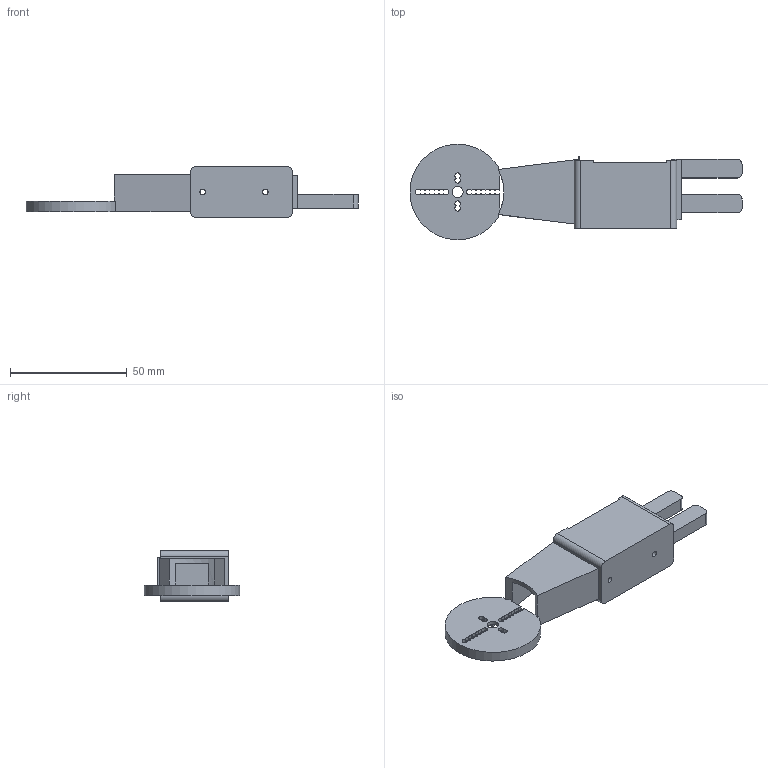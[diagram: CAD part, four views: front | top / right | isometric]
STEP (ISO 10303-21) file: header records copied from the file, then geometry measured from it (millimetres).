
FILE_DESCRIPTION(('Open CASCADE Model'),'2;1');
FILE_NAME('Open CASCADE Shape Model','2026-11-19T06:41:07',('Author'),( 'Open CASCADE'),'Open CASCADE STEP processor 8.0','Open CASCADE 8.0' ,'Unknown');
FILE_SCHEMA(('AUTOMOTIVE_DESIGN { 1 0 10303 214 1 1 1 1 }'));
Length unit declared in the file: millimetre
Products named in the file (1): Open CASCADE STEP translator 8.0 29
Bounding box: 142.43 x 40.95 x 22 mm (x, y, z)
Volume: 19721 mm3; surface area: 17150.4 mm2
Topology: 1 solids, 1 shells, 111 faces, 332 edges, 221 vertices
Faces by surface type: plane 64, cylinder 47
Full cylindrical faces by diameter (mm): 2.4 x2, 4.8 x1
Entity records: 7940 total; most frequent: CARTESIAN_POINT 1649, DIRECTION 1080, ORIENTED_EDGE 664, PCURVE 664, DEFINITIONAL_REPRESENTATION 664, LINE 572, VECTOR 572, EDGE_CURVE 332
